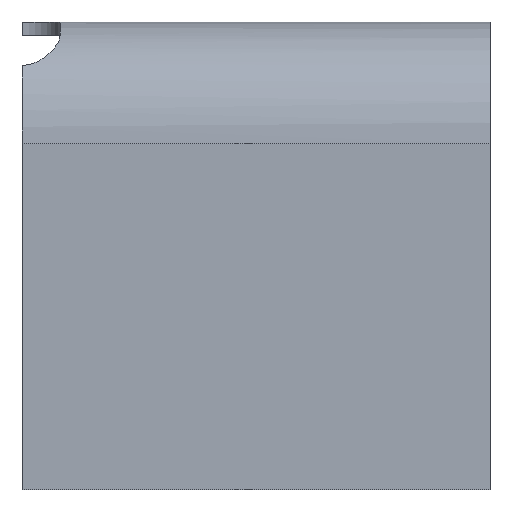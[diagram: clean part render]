
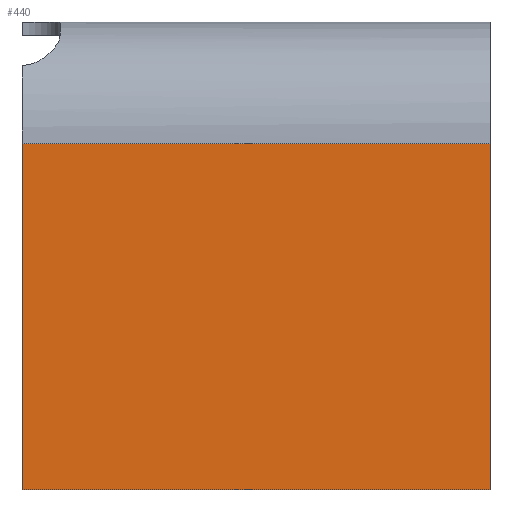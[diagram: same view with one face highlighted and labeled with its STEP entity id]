
A CAD part, left-side view. The second image highlights one B-rep face of the part: STEP entity #440.
In plain terms, the highlighted planar face has unit normal (-1, 0, 0).
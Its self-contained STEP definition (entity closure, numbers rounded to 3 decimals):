
#32=PLANE('',#510);
#55=FACE_OUTER_BOUND('',#83,.T.);
#83=EDGE_LOOP('',(#374,#375,#376,#377));
#117=LINE('',#775,#152);
#120=LINE('',#782,#155);
#121=LINE('',#785,#156);
#122=LINE('',#786,#157);
#152=VECTOR('',#619,10.);
#155=VECTOR('',#626,10.);
#156=VECTOR('',#629,10.);
#157=VECTOR('',#630,10.);
#221=VERTEX_POINT('',#772);
#222=VERTEX_POINT('',#774);
#224=VERTEX_POINT('',#780);
#225=VERTEX_POINT('',#784);
#276=EDGE_CURVE('',#222,#221,#117,.T.);
#280=EDGE_CURVE('',#224,#221,#120,.T.);
#281=EDGE_CURVE('',#225,#222,#121,.T.);
#282=EDGE_CURVE('',#225,#224,#122,.T.);
#374=ORIENTED_EDGE('',*,*,#281,.T.);
#375=ORIENTED_EDGE('',*,*,#276,.T.);
#376=ORIENTED_EDGE('',*,*,#280,.F.);
#377=ORIENTED_EDGE('',*,*,#282,.F.);
#440=ADVANCED_FACE('',(#55),#32,.T.);
#510=AXIS2_PLACEMENT_3D('',#783,#627,#628);
#619=DIRECTION('',(0.,1.,0.));
#626=DIRECTION('',(0.,0.,1.));
#627=DIRECTION('center_axis',(-1.,0.,0.));
#628=DIRECTION('ref_axis',(0.,0.,1.));
#629=DIRECTION('',(0.,0.,1.));
#630=DIRECTION('',(0.,1.,0.));
#772=CARTESIAN_POINT('',(-127.5,245.,63.75));
#774=CARTESIAN_POINT('',(-127.5,0.,63.75));
#775=CARTESIAN_POINT('',(-127.5,0.,63.75));
#780=CARTESIAN_POINT('',(-127.5,245.,-117.5));
#782=CARTESIAN_POINT('',(-127.5,245.,-117.5));
#783=CARTESIAN_POINT('Origin',(-127.5,0.,-117.5));
#784=CARTESIAN_POINT('',(-127.5,0.,-117.5));
#785=CARTESIAN_POINT('',(-127.5,0.,-117.5));
#786=CARTESIAN_POINT('',(-127.5,0.,-117.5));
